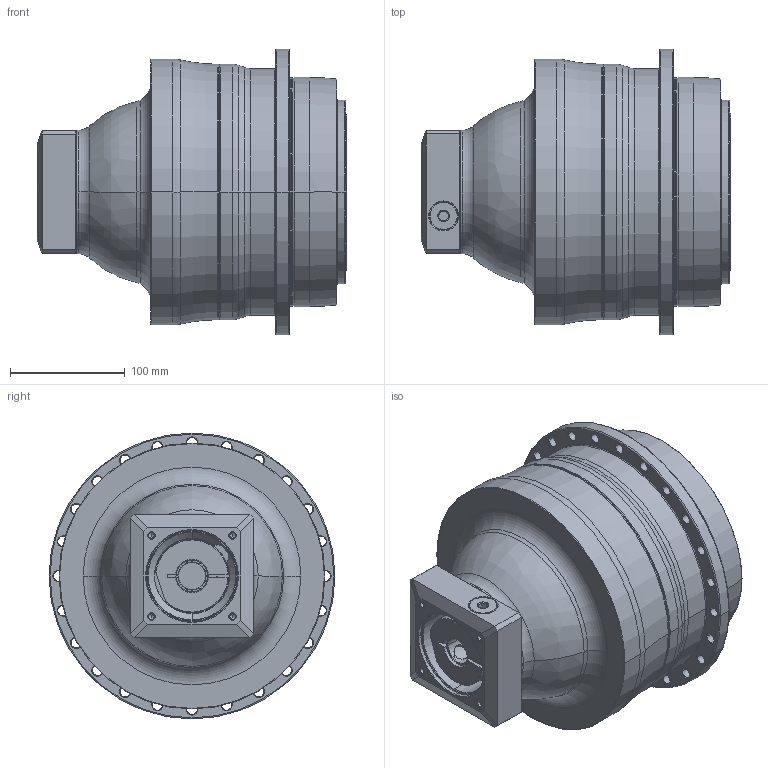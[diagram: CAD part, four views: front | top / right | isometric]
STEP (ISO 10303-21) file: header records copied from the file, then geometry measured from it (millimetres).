
FILE_DESCRIPTION((''),'2;1');
FILE_NAME('AP200_3ST_24-P0409510201_ASM','2018-06-06T',('d01226'),(''),'PRO/ENGINEER BY PARAMETRIC TECHNOLOGY CORPORATION, 2008410','PRO/ENGINEER BY PARAMETRIC TECHNOLOGY CORPORATION, 2008410','');
FILE_SCHEMA(('CONFIG_CONTROL_DESIGN'));
Length unit declared in the file: millimetre
Products named in the file (9): P0278601003; P0359601103; P1366600101; P0503500010; P0912401001; P1211600001; P0409510201; 21711418017; AP200_3ST_24-P0409510201_ASM
Assembly tree (8 placements, depth 2):
  AP200_3ST_24-P0409510201_ASM
    P0278601003
    P0359601103
    P1366600101
    P0503500010
    P0912401001
    P1211600001
    P0409510201
    21711418017
Bounding box: 270 x 249.5 x 249.5 mm (x, y, z)
Volume: 7427279 mm3; surface area: 502330.4 mm2
Topology: 9 solids, 34 shells, 638 faces, 1536 edges, 950 vertices
Faces by surface type: cylinder 265, cone 177, plane 106, torus 74, bspline 16
Entity records: 24000 total; most frequent: CARTESIAN_POINT 8352, DIRECTION 3589, ORIENTED_EDGE 2954, AXIS2_PLACEMENT_3D 1541, EDGE_CURVE 1528, VERTEX_POINT 950, CIRCLE 892, EDGE_LOOP 774
